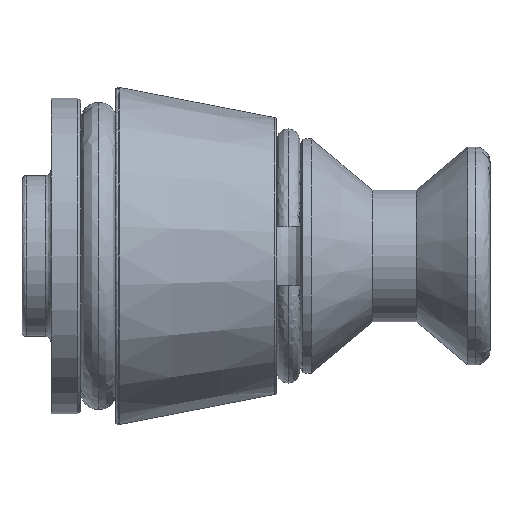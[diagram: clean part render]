
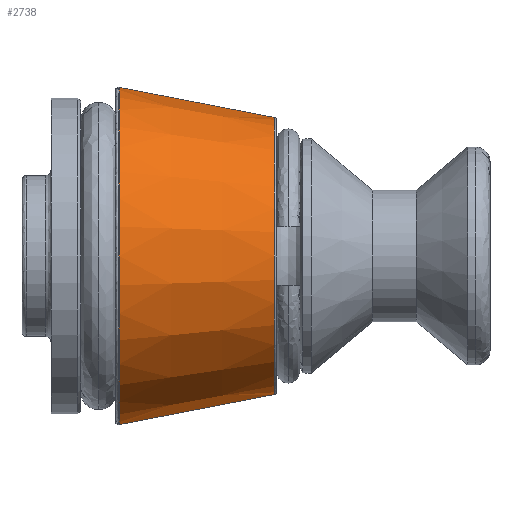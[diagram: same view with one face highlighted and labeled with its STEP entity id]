
A CAD part, left-side view. The second image highlights one B-rep face of the part: STEP entity #2738.
In plain terms, the highlighted conical face has half-angle 11 degrees and reference radius 5.763 mm.
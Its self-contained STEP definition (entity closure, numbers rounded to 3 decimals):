
#64 = ORIENTED_EDGE ( 'NONE', *, *, #278, .T. ) ;
#161 = EDGE_LOOP ( 'NONE', ( #1123, #2134, #64, #1970 ) ) ;
#171 = VERTEX_POINT ( 'NONE', #2369 ) ;
#257 = AXIS2_PLACEMENT_3D ( 'NONE', #1381, #1905, #2202 ) ;
#278 = EDGE_CURVE ( 'NONE', #1623, #2218, #1513, .T. ) ;
#308 = DIRECTION ( 'NONE',  ( 0., 1., 0. ) ) ;
#730 = DIRECTION ( 'NONE',  ( 0., 0.982, -0.191 ) ) ;
#908 = EDGE_CURVE ( 'NONE', #171, #1623, #961, .T. ) ;
#913 = DIRECTION ( 'NONE',  ( 0., 0., 1. ) ) ;
#957 = VERTEX_POINT ( 'NONE', #1143 ) ;
#961 = CIRCLE ( 'NONE', #2755, 4.733 ) ;
#1061 = VECTOR ( 'NONE', #2161, 1000. ) ;
#1123 = ORIENTED_EDGE ( 'NONE', *, *, #1738, .F. ) ;
#1137 = VECTOR ( 'NONE', #730, 1000. ) ;
#1143 = CARTESIAN_POINT ( 'NONE',  ( 0., 12.681, -5.763 ) ) ;
#1160 = DIRECTION ( 'NONE',  ( 0., 0., 1. ) ) ;
#1163 = DIRECTION ( 'NONE',  ( 0., 1., 0. ) ) ;
#1165 = CARTESIAN_POINT ( 'NONE',  ( 0., 7.381, 0. ) ) ;
#1244 = LINE ( 'NONE', #1517, #1137 ) ;
#1316 = CIRCLE ( 'NONE', #257, 5.763 ) ;
#1381 = CARTESIAN_POINT ( 'NONE',  ( 0., 12.681, 0. ) ) ;
#1513 = LINE ( 'NONE', #2168, #1061 ) ;
#1517 = CARTESIAN_POINT ( 'NONE',  ( 0., 12.681, -5.763 ) ) ;
#1608 = CARTESIAN_POINT ( 'NONE',  ( 0., 7.381, 4.733 ) ) ;
#1623 = VERTEX_POINT ( 'NONE', #1608 ) ;
#1696 = CARTESIAN_POINT ( 'NONE',  ( 0., 12.681, 5.763 ) ) ;
#1738 = EDGE_CURVE ( 'NONE', #171, #957, #1244, .T. ) ;
#1905 = DIRECTION ( 'NONE',  ( 0., -1., 0. ) ) ;
#1970 = ORIENTED_EDGE ( 'NONE', *, *, #2246, .T. ) ;
#2134 = ORIENTED_EDGE ( 'NONE', *, *, #908, .T. ) ;
#2161 = DIRECTION ( 'NONE',  ( 0., 0.982, 0.191 ) ) ;
#2168 = CARTESIAN_POINT ( 'NONE',  ( 0., 12.681, 5.763 ) ) ;
#2169 = AXIS2_PLACEMENT_3D ( 'NONE', #2516, #308, #913 ) ;
#2202 = DIRECTION ( 'NONE',  ( 0., 0., 1. ) ) ;
#2218 = VERTEX_POINT ( 'NONE', #1696 ) ;
#2246 = EDGE_CURVE ( 'NONE', #2218, #957, #1316, .T. ) ;
#2369 = CARTESIAN_POINT ( 'NONE',  ( 0., 7.381, -4.733 ) ) ;
#2446 = CONICAL_SURFACE ( 'NONE', #2169, 5.763, 0.192 ) ;
#2516 = CARTESIAN_POINT ( 'NONE',  ( 0., 12.681, 0. ) ) ;
#2555 = FACE_OUTER_BOUND ( 'NONE', #161, .T. ) ;
#2738 = ADVANCED_FACE ( 'NONE', ( #2555 ), #2446, .T. ) ;
#2755 = AXIS2_PLACEMENT_3D ( 'NONE', #1165, #1163, #1160 ) ;
